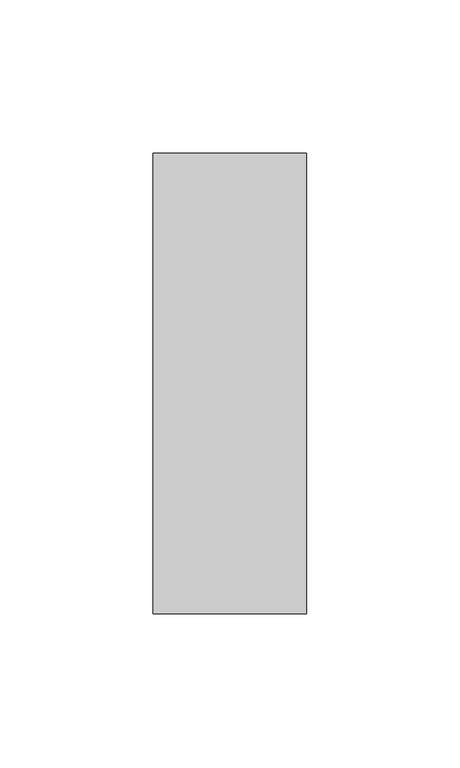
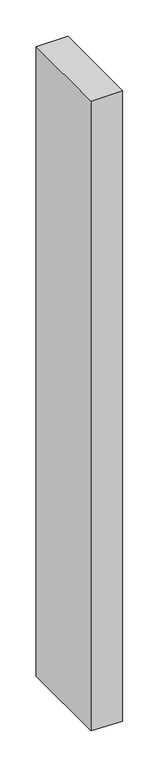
"""IFC4 building model written with IfcOpenShell, lengths in millimetres: member geometry, Прямоугольный импост : 50 x 150 мм."""

from ifc_helpers import new_model, si_unit, origin, place, context, project, spatial, faceted_brep, source, transform, mapped, element, save


def member_f2812d53(model_context):
    return source(origin(), model_context, "Body", "Brep", [
        faceted_brep([(25.0, 75.0, 0.0), (-25.0, 75.0, 0.0), (-25.0, -75.0, 0.0), (25.0, -75.0, 0.0), (25.0, 75.0, -1054.0371737), (-25.0, 75.0, -1053.0501584), (-25.0, -75.0, -1053.3969551), (25.0, -75.0, -1054.3839705)], [[[0, 1, 2, 3]], [[1, 0, 4, 5]], [[2, 1, 5, 6]], [[3, 2, 6, 7]], [[0, 3, 7, 4]], [[4, 7, 6, 5]]]),
    ])


if __name__ == "__main__":
    model = new_model("IFC4")
    model_context = context("Model", 3, world=origin())
    ifc_project = project(units=[si_unit("LENGTHUNIT", "METRE", prefix="MILLI")], contexts=[model_context])
    site = spatial("IfcSite", under=ifc_project)
    building = spatial("IfcBuilding", under=site)
    placement = place(None, origin())
    member_shape = member_f2812d53(model_context)
    element("IfcMember", 1, ObjectType="Прямоугольный импост : 50 x 150 мм", at=placement, inside=building, context=model_context, shape_type="MappedRepresentation", body=[
        mapped(member_shape, transform((0.0, 0.0, 0.0), x_axis=(1.0, 0.0, 0.0), y_axis=(0.0, 1.0, 0.0), z_axis=(0.0, 0.0, 1.0))),
    ])
    save(model, "model.ifc")
